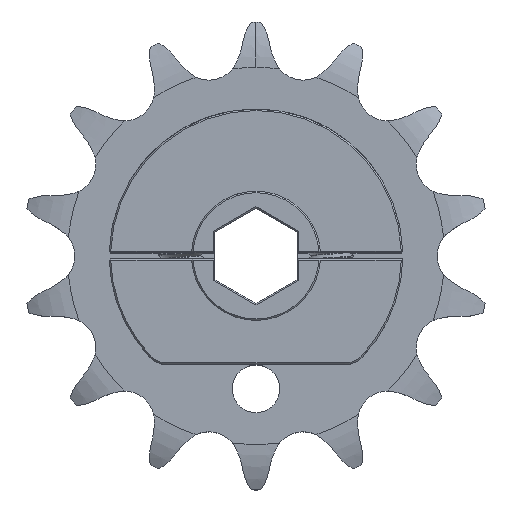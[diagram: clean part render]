
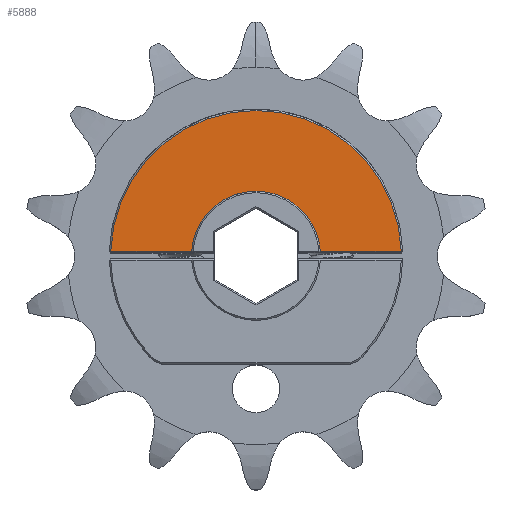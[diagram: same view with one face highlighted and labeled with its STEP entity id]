
A CAD part, top view. The second image highlights one B-rep face of the part: STEP entity #5888.
In plain terms, the highlighted planar face has unit normal (0, 0, 1).
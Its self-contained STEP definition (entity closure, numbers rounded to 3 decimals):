
#206 = EDGE_CURVE ( 'NONE', #7865, #16729, #14945, .T. ) ;
#297 = CARTESIAN_POINT ( 'NONE',  ( 0., 0., 8.9 ) ) ;
#491 = CARTESIAN_POINT ( 'NONE',  ( 5.487, 0.375, 8.9 ) ) ;
#873 = DIRECTION ( 'NONE',  ( 1., 0., 0. ) ) ;
#1123 = DIRECTION ( 'NONE',  ( 1., 0., 0. ) ) ;
#1783 = CARTESIAN_POINT ( 'NONE',  ( 12.369, 0.375, 8.9 ) ) ;
#2206 = CARTESIAN_POINT ( 'NONE',  ( 0., 0.375, 8.9 ) ) ;
#2212 = VECTOR ( 'NONE', #873, 1000. ) ;
#2267 = LINE ( 'NONE', #2206, #21324 ) ;
#2632 = DIRECTION ( 'NONE',  ( 0., 0., 1. ) ) ;
#3795 = ORIENTED_EDGE ( 'NONE', *, *, #22714, .T. ) ;
#4255 = CARTESIAN_POINT ( 'NONE',  ( 0., 0., 8.9 ) ) ;
#4425 = LINE ( 'NONE', #21606, #2212 ) ;
#5490 = ORIENTED_EDGE ( 'NONE', *, *, #206, .F. ) ;
#5888 = ADVANCED_FACE ( 'NONE', ( #9460 ), #14527, .T. ) ;
#7620 = DIRECTION ( 'NONE',  ( 0., 0., 1. ) ) ;
#7819 = DIRECTION ( 'NONE',  ( 0., 0., 1. ) ) ;
#7865 = VERTEX_POINT ( 'NONE', #491 ) ;
#8807 = AXIS2_PLACEMENT_3D ( 'NONE', #297, #2632, #1123 ) ;
#9167 = VERTEX_POINT ( 'NONE', #1783 ) ;
#9460 = FACE_OUTER_BOUND ( 'NONE', #15257, .T. ) ;
#12685 = CARTESIAN_POINT ( 'NONE',  ( -5.487, 0.375, 8.9 ) ) ;
#14527 = PLANE ( 'NONE',  #21284 ) ;
#14613 = EDGE_CURVE ( 'NONE', #9167, #19535, #18265, .T. ) ;
#14699 = DIRECTION ( 'NONE',  ( 1., 0., 0. ) ) ;
#14945 = CIRCLE ( 'NONE', #8807, 5.5 ) ;
#15257 = EDGE_LOOP ( 'NONE', ( #5490, #3795, #16287, #18074 ) ) ;
#16287 = ORIENTED_EDGE ( 'NONE', *, *, #14613, .T. ) ;
#16418 = CARTESIAN_POINT ( 'NONE',  ( 0., 0., 8.9 ) ) ;
#16569 = CARTESIAN_POINT ( 'NONE',  ( -12.369, 0.375, 8.9 ) ) ;
#16729 = VERTEX_POINT ( 'NONE', #12685 ) ;
#18034 = DIRECTION ( 'NONE',  ( 1., 0., 0. ) ) ;
#18074 = ORIENTED_EDGE ( 'NONE', *, *, #19373, .T. ) ;
#18265 = CIRCLE ( 'NONE', #22712, 12.375 ) ;
#19373 = EDGE_CURVE ( 'NONE', #19535, #16729, #2267, .T. ) ;
#19535 = VERTEX_POINT ( 'NONE', #16569 ) ;
#21284 = AXIS2_PLACEMENT_3D ( 'NONE', #4255, #7819, #21910 ) ;
#21324 = VECTOR ( 'NONE', #18034, 1000. ) ;
#21606 = CARTESIAN_POINT ( 'NONE',  ( 0., 0.375, 8.9 ) ) ;
#21910 = DIRECTION ( 'NONE',  ( 1., 0., 0. ) ) ;
#22712 = AXIS2_PLACEMENT_3D ( 'NONE', #16418, #7620, #14699 ) ;
#22714 = EDGE_CURVE ( 'NONE', #7865, #9167, #4425, .T. ) ;
